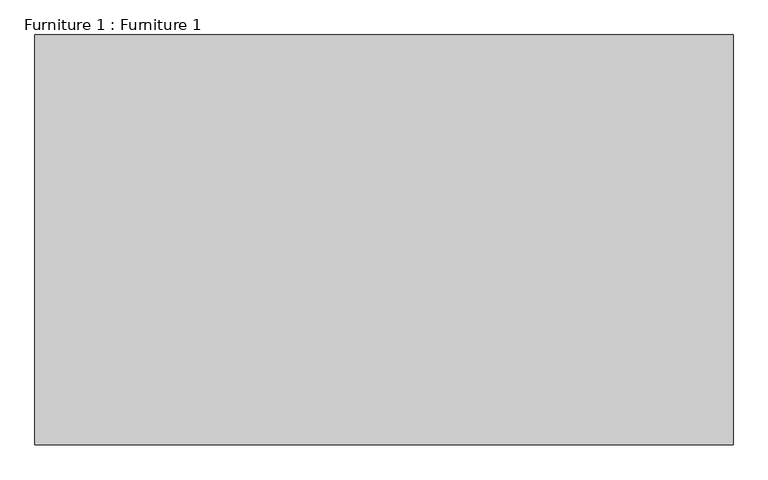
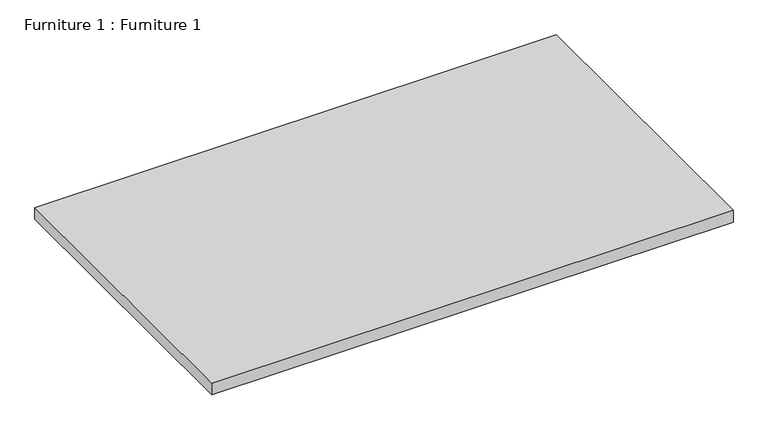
"""IFC4 building model written with IfcOpenShell, lengths in millimetres: furniture geometry, Furniture 1 : Furniture 1."""

from ifc_helpers import new_model, si_unit, frame, origin, place, context, project, spatial, polyline, outline, extrude, source, transform, mapped, element, save


def furniture_1_furniture_1_6a59e601(model_context):
    return source(origin(), model_context, "Body", "SweptSolid", [
        extrude(outline(polyline([(-9509.9219174, 4030.0), (-9509.9219174, 2801.5484211), (-11603.3852279, 2801.5484211), (-11603.3852279, 4030.0), (-9509.9219174, 4030.0)])), frame((0.0, 0.0, 2500.0), z_axis=(0.0, 0.0, 1.0), x_axis=(1.0, 0.0, 0.0)), (0.0, 0.0, 1.0), 50.0),
    ])


if __name__ == "__main__":
    model = new_model("IFC4")
    model_context = context("Model", 3, world=origin())
    ifc_project = project(units=[si_unit("LENGTHUNIT", "METRE", prefix="MILLI")], contexts=[model_context])
    site = spatial("IfcSite", under=ifc_project)
    building = spatial("IfcBuilding", under=site)
    placement = place(None, origin())
    furniture_1_furniture_1_shape = furniture_1_furniture_1_6a59e601(model_context)
    element("IfcFurniture", 1, ObjectType="Furniture 1 : Furniture 1", at=placement, inside=building, context=model_context, shape_type="MappedRepresentation", body=[
        mapped(furniture_1_furniture_1_shape, transform((0.0, 0.0, 0.0), x_axis=(1.0, 0.0, 0.0), y_axis=(0.0, 1.0, 0.0), z_axis=(0.0, 0.0, 1.0))),
    ])
    save(model, "model.ifc")
